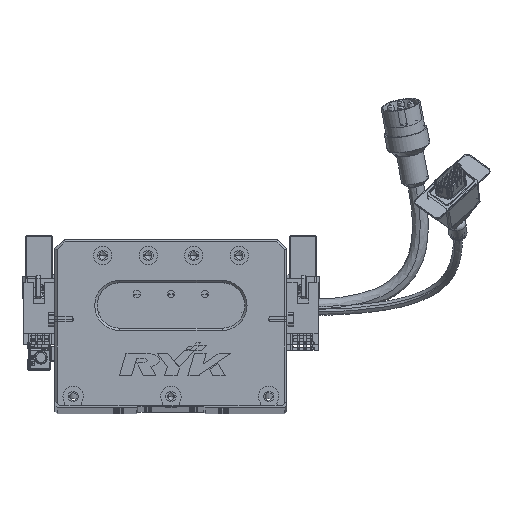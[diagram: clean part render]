
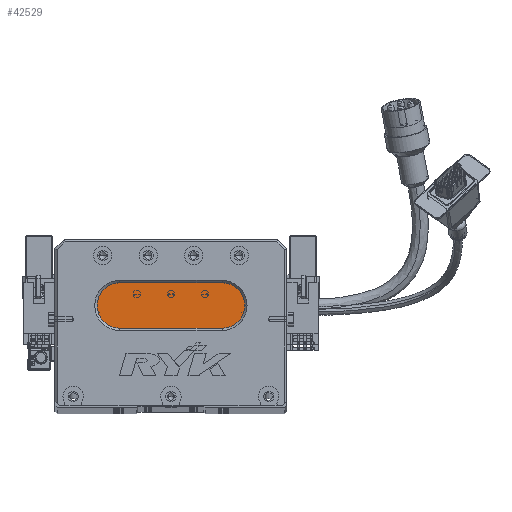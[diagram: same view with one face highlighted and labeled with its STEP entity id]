
A CAD part, top view. The second image highlights one B-rep face of the part: STEP entity #42529.
In plain terms, the highlighted planar face has unit normal (0, 0, 1) as drawn and (0, 0, -1) by its records, which use the part's own axes.
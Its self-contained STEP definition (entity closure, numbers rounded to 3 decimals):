
#2486 = VECTOR ( 'NONE', #30448, 1000. ) ;
#2664 = CARTESIAN_POINT ( 'NONE',  ( 73.5, 44., 13. ) ) ;
#3379 = CIRCLE ( 'NONE', #8276, 10. ) ;
#3578 = EDGE_CURVE ( 'NONE', #8412, #63662, #17850, .T. ) ;
#6380 = VECTOR ( 'NONE', #36299, 1000. ) ;
#6616 = CARTESIAN_POINT ( 'NONE',  ( 73.5, 34., 13. ) ) ;
#8276 = AXIS2_PLACEMENT_3D ( 'NONE', #32642, #44254, #9655 ) ;
#8412 = VERTEX_POINT ( 'NONE', #20851 ) ;
#8467 = DIRECTION ( 'NONE',  ( -1., 0., 0. ) ) ;
#9655 = DIRECTION ( 'NONE',  ( -1., 0., 0. ) ) ;
#10938 = LINE ( 'NONE', #42825, #6380 ) ;
#14473 = ORIENTED_EDGE ( 'NONE', *, *, #49201, .T. ) ;
#15545 = AXIS2_PLACEMENT_3D ( 'NONE', #67108, #72887, #32377 ) ;
#16048 = EDGE_CURVE ( 'NONE', #46102, #42006, #64244, .T. ) ;
#17850 = LINE ( 'NONE', #24646, #2486 ) ;
#18746 = CARTESIAN_POINT ( 'NONE',  ( 28.5, 34., 13. ) ) ;
#20851 = CARTESIAN_POINT ( 'NONE',  ( 28.5, 54., 13. ) ) ;
#24646 = CARTESIAN_POINT ( 'NONE',  ( 73.5, 54., 13. ) ) ;
#26412 = DIRECTION ( 'NONE',  ( -1., 0., 0. ) ) ;
#27437 = CIRCLE ( 'NONE', #50424, 10. ) ;
#30448 = DIRECTION ( 'NONE',  ( 1., 0., 0. ) ) ;
#31935 = PLANE ( 'NONE',  #49045 ) ;
#32377 = DIRECTION ( 'NONE',  ( -1., 0., 0. ) ) ;
#32642 = CARTESIAN_POINT ( 'NONE',  ( 28.5, 44., 13. ) ) ;
#35047 = EDGE_CURVE ( 'NONE', #42932, #46102, #10938, .T. ) ;
#36299 = DIRECTION ( 'NONE',  ( -1., 0., 0. ) ) ;
#36388 = ORIENTED_EDGE ( 'NONE', *, *, #74110, .T. ) ;
#38057 = EDGE_LOOP ( 'NONE', ( #36388, #40042, #71165, #14473, #62483 ) ) ;
#38772 = DIRECTION ( 'NONE',  ( 0., 0., -1. ) ) ;
#40042 = ORIENTED_EDGE ( 'NONE', *, *, #35047, .T. ) ;
#42006 = VERTEX_POINT ( 'NONE', #65516 ) ;
#42529 = ADVANCED_FACE ( 'NONE', ( #46417 ), #31935, .T. ) ;
#42825 = CARTESIAN_POINT ( 'NONE',  ( 73.5, 34., 13. ) ) ;
#42932 = VERTEX_POINT ( 'NONE', #6616 ) ;
#43067 = DIRECTION ( 'NONE',  ( 0., 0., -1. ) ) ;
#44254 = DIRECTION ( 'NONE',  ( 0., 0., -1. ) ) ;
#46102 = VERTEX_POINT ( 'NONE', #18746 ) ;
#46417 = FACE_OUTER_BOUND ( 'NONE', #38057, .T. ) ;
#48837 = CARTESIAN_POINT ( 'NONE',  ( 73.5, 54., 13. ) ) ;
#49045 = AXIS2_PLACEMENT_3D ( 'NONE', #67418, #38772, #26412 ) ;
#49201 = EDGE_CURVE ( 'NONE', #42006, #8412, #3379, .T. ) ;
#50424 = AXIS2_PLACEMENT_3D ( 'NONE', #2664, #43067, #8467 ) ;
#62483 = ORIENTED_EDGE ( 'NONE', *, *, #3578, .T. ) ;
#63662 = VERTEX_POINT ( 'NONE', #48837 ) ;
#64244 = CIRCLE ( 'NONE', #15545, 10. ) ;
#65516 = CARTESIAN_POINT ( 'NONE',  ( 18.5, 44., 13. ) ) ;
#67108 = CARTESIAN_POINT ( 'NONE',  ( 28.5, 44., 13. ) ) ;
#67418 = CARTESIAN_POINT ( 'NONE',  ( 73.5, 44., 13. ) ) ;
#71165 = ORIENTED_EDGE ( 'NONE', *, *, #16048, .T. ) ;
#72887 = DIRECTION ( 'NONE',  ( 0., 0., -1. ) ) ;
#74110 = EDGE_CURVE ( 'NONE', #63662, #42932, #27437, .T. ) ;
